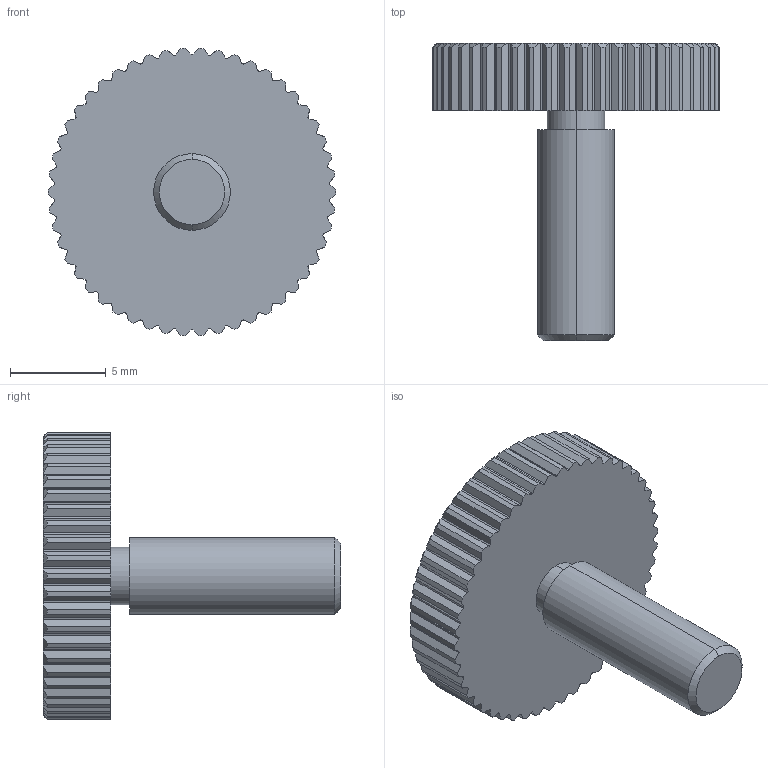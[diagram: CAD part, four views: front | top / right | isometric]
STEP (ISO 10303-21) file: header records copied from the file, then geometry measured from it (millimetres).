
FILE_DESCRIPTION (( 'STEP AP214' ), '1' );
FILE_NAME ('唅聽.STEP', '2026-10-21T01:43:57', ( '' ), ( '' ), 'SwSTEP 2.0', 'SolidWorks 2024', '' );
FILE_SCHEMA (( 'AUTOMOTIVE_DESIGN' ));
Length unit declared in the file: millimetre
Products named in the file (1): 旋钮
Bounding box: 15 x 15.5 x 14.98 mm (x, y, z)
Volume: 716.8 mm3; surface area: 732.9 mm2
Topology: 1 solids, 1 shells, 277 faces, 802 edges, 529 vertices
Faces by surface type: plane 111, cylinder 105, cone 61
Entity records: 9329 total; most frequent: CARTESIAN_POINT 1966, ORIENTED_EDGE 1600, DIRECTION 1520, EDGE_CURVE 800, AXIS2_PLACEMENT_3D 549, VERTEX_POINT 529, LINE 422, VECTOR 422
